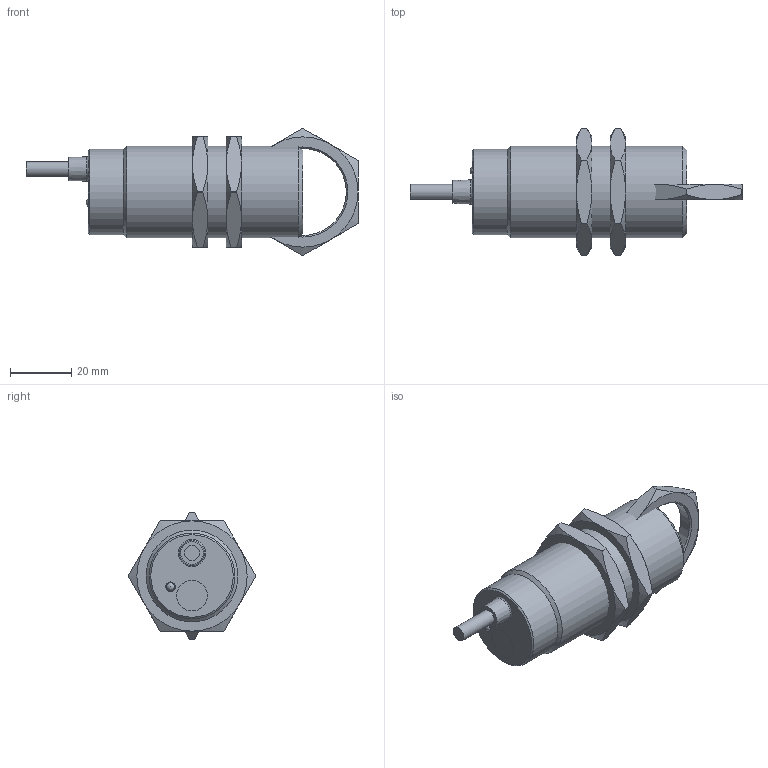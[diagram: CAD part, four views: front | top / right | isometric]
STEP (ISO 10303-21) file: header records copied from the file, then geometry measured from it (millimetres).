
FILE_DESCRIPTION( ( 'Unknown' ), '1' );
FILE_NAME( '//server-file-1/e_me/Solid Edge/Models/Dokumentationen/Ultraschall/UxAM 30/Vereinfachte Modelle/Neutralformate/UxAM_30_Button_Kabel.stp', 'Unknown', ( 'Unknown' ), ( 'Unknown' ), 'XStep 1.0', 'Unknown', ' ' );
FILE_SCHEMA( ( 'CONFIG_CONTROL_DESIGN' ) );
Length unit declared in the file: millimetre
Products named in the file (3): Assem1; 101477; UxAM_30_Button_Kabel_oA
Bounding box: 108.3 x 41.56 x 41.56 mm (x, y, z)
Volume: 104517.9 mm3; surface area: 21933.7 mm2
Topology: 5 solids, 5 shells, 125 faces, 269 edges, 164 vertices
Faces by surface type: cone 50, plane 38, cylinder 33, torus 2, sphere 2
Full cylindrical faces by diameter (mm): 3.1 x2, 4.9 x2, 10 x2, 14.5 x2, 27.9 x2, 28.376 x3, 30 x2
Entity records: 1441 total; most frequent: CARTESIAN_POINT 360, DIRECTION 208, ORIENTED_EDGE 164, AXIS2_PLACEMENT_3D 98, EDGE_CURVE 82, EDGE_LOOP 70, VERTEX_POINT 58, FACE_OUTER_BOUND 56
